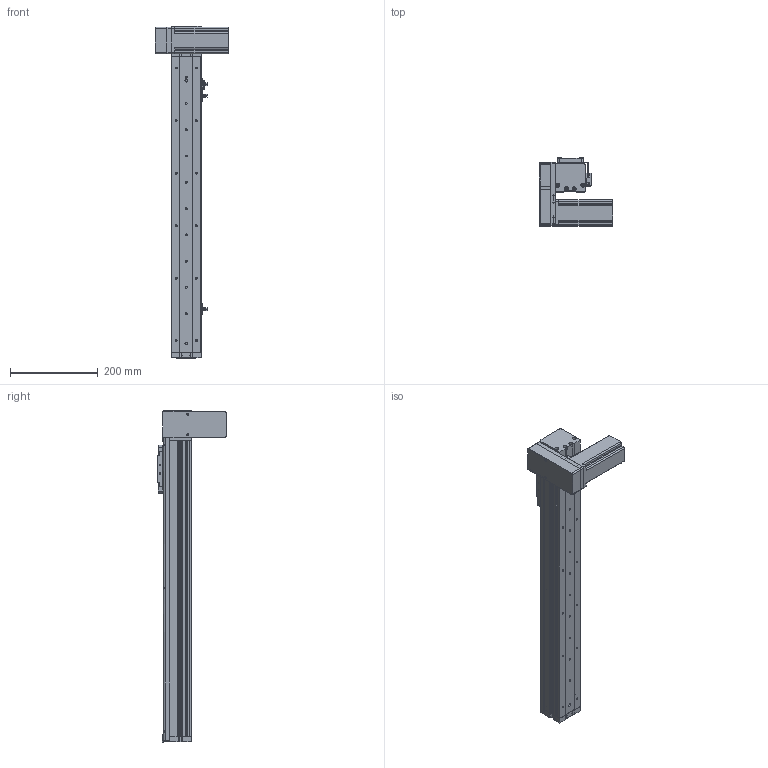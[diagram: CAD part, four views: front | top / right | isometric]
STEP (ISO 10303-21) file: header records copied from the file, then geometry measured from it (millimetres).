
FILE_DESCRIPTION (( 'STEP AP214' ), '1' );
FILE_NAME ('KSD68BS-S500-MRD-CR.STEP', '2019-08-28T02:11:48', ( '微软用户' ), ( '微软中国' ), 'SwSTEP 2.0', 'SolidWorks 2014', '' );
FILE_SCHEMA (( 'AUTOMOTIVE_DESIGN' ));
Length unit declared in the file: millimetre
Products named in the file (14): 悵誘欶奻狟殏; 68宽马达安装板连板上折同步带; 感应片68宽全封闭; U倰嫖萇EEㄜSX672; 台达ECMA－C20604AS伺服电机（400W); KSD68BS 500行程底板全封闭; KSD68BS-S500-MRD-CR; KSD68BS 500行程盖板全封闭; 68宽单导轨全封闭丝杆传动安装板1防护罩; KSD68BS 500行程侧板全封闭; 68宽单导轨全封闭同步带端板; 68遵裔啣揤啣1; 68单导轨全封闭同步带电机座右; 68单导轨全封闭同步带安装板
Assembly tree (17 placements, depth 2):
  KSD68BS-S500-MRD-CR
    KSD68BS 500行程底板全封闭
    台达ECMA－C20604AS伺服电机（400W)
    U倰嫖萇EEㄜSX672  x3
    感应片68宽全封闭
    68宽马达安装板连板上折同步带
    悵誘欶奻狟殏
    68单导轨全封闭同步带安装板
    68单导轨全封闭同步带电机座右
    68宽单导轨全封闭同步带端板
    KSD68BS 500行程侧板全封闭  x2
    68宽单导轨全封闭丝杆传动安装板1防护罩
    68遵裔啣揤啣1  x2
    KSD68BS 500行程盖板全封闭
Bounding box: 167.2 x 155.5 x 758.1 mm (x, y, z)
Volume: 1864246.8 mm3; surface area: 653706.3 mm2
Topology: 18 solids, 18 shells, 1398 faces, 3939 edges, 2531 vertices
Faces by surface type: cylinder 635, plane 627, cone 136
Entity records: 43428 total; most frequent: CARTESIAN_POINT 7293, DIRECTION 6579, ORIENTED_EDGE 6306, EDGE_CURVE 3153, AXIS2_PLACEMENT_3D 2343, VERTEX_POINT 2069, VECTOR 1893, LINE 1893
